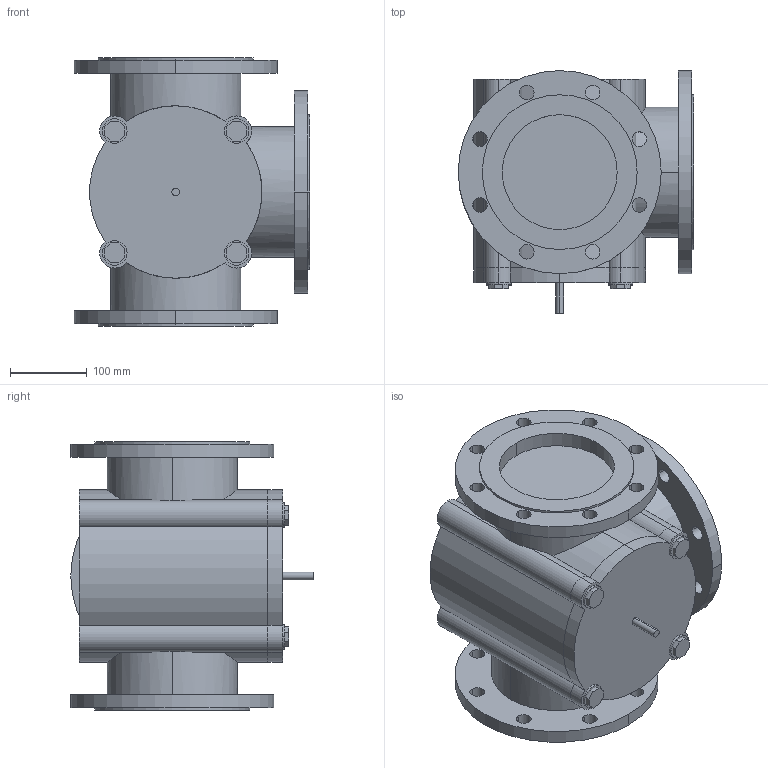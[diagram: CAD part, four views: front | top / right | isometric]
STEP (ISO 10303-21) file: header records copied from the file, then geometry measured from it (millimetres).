
FILE_DESCRIPTION((''),'2;1');
FILE_NAME('KL000056.dwg.stp','2006-10-04T11:31:40',(''),(''),'Mechanical Desktop 2006','Mechanical Desktop 2006',', , ');
FILE_SCHEMA(('AUTOMOTIVE_DESIGN { 1 2 10303 214 0 1 1 1 }'));
Length unit declared in the file: millimetre
Products named in the file (1): Product
Bounding box: 307.5 x 316.5 x 350 mm (x, y, z)
Volume: 16569092.1 mm3; surface area: 938526.3 mm2
Topology: 17 solids, 17 shells, 194 faces, 471 edges, 314 vertices
Faces by surface type: cylinder 114, plane 64, bspline 16
Entity records: 6553 total; most frequent: CARTESIAN_POINT 1740, DIRECTION 1007, ORIENTED_EDGE 942, EDGE_CURVE 471, AXIS2_PLACEMENT_3D 393, VERTEX_POINT 314, EDGE_LOOP 251, VECTOR 221
